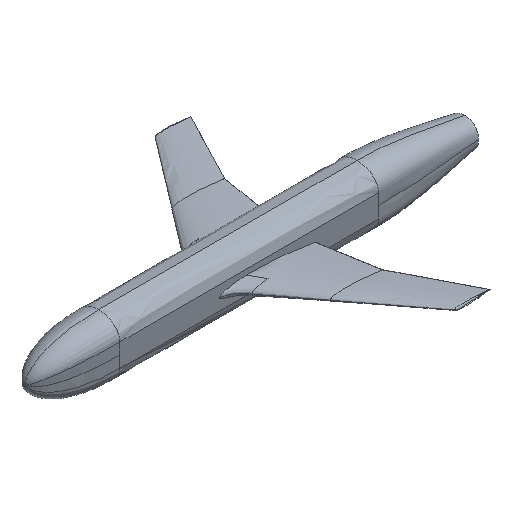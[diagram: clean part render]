
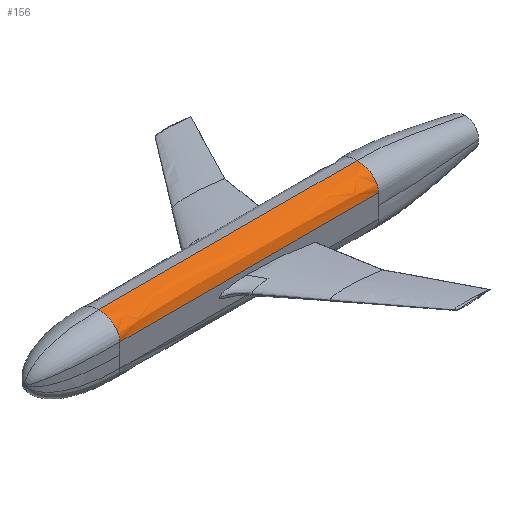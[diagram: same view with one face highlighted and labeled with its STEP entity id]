
A CAD part, isometric view. The second image highlights one B-rep face of the part: STEP entity #156.
In plain terms, the highlighted face is a extrusion surface.
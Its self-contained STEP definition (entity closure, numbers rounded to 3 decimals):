
#103=(
BOUNDED_CURVE()
B_SPLINE_CURVE(3,(#15934,#15935,#15936,#15937),.UNSPECIFIED.,.F.,.F.)
B_SPLINE_CURVE_WITH_KNOTS((4,4),(0.,1.),.UNSPECIFIED.)
CURVE()
GEOMETRIC_REPRESENTATION_ITEM()
RATIONAL_B_SPLINE_CURVE((0.277,0.223,0.223,
0.277))
REPRESENTATION_ITEM('')
);
#104=(
BOUNDED_CURVE()
B_SPLINE_CURVE(3,(#15941,#15942,#15943,#15944),.UNSPECIFIED.,.F.,.F.)
B_SPLINE_CURVE_WITH_KNOTS((4,4),(0.,1.),.UNSPECIFIED.)
CURVE()
GEOMETRIC_REPRESENTATION_ITEM()
RATIONAL_B_SPLINE_CURVE((0.277,0.223,0.223,
0.277))
REPRESENTATION_ITEM('')
);
#117=SURFACE_OF_LINEAR_EXTRUSION('',#104,#125);
#125=VECTOR('',#712,1.);
#156=ADVANCED_FACE('',(#220),#117,.F.);
#220=FACE_OUTER_BOUND('',#261,.T.);
#261=EDGE_LOOP('',(#355,#356,#357,#358));
#355=ORIENTED_EDGE('',*,*,#552,.T.);
#356=ORIENTED_EDGE('',*,*,#553,.F.);
#357=ORIENTED_EDGE('',*,*,#550,.F.);
#358=ORIENTED_EDGE('',*,*,#546,.F.);
#481=VERTEX_POINT('',#13975);
#484=VERTEX_POINT('',#14044);
#486=VERTEX_POINT('',#15013);
#487=VERTEX_POINT('',#15938);
#546=EDGE_CURVE('',#484,#481,#636,.T.);
#550=EDGE_CURVE('',#481,#486,#640,.T.);
#552=EDGE_CURVE('',#484,#487,#103,.T.);
#553=EDGE_CURVE('',#486,#487,#642,.T.);
#636=B_SPLINE_CURVE_WITH_KNOTS('',3,(#14045,#14046,#14047,#14048),
 .UNSPECIFIED.,.F.,.F.,(4,4),(0.,1.),.UNSPECIFIED.);
#640=B_SPLINE_CURVE_WITH_KNOTS('',3,(#14994,#14995,#14996,#14997,#14998,
#14999,#15000,#15001,#15002,#15003,#15004,#15005,#15006,#15007,#15008,#15009,
#15010,#15011,#15012),.UNSPECIFIED.,.F.,.F.,(4,1,1,1,1,1,1,1,1,1,1,1,1,
1,1,1,4),(0.,0.063,0.125,0.188,0.25,0.313,0.375,0.438,0.5,0.563,0.625,
0.688,0.75,0.813,0.875,0.938,1.),.UNSPECIFIED.);
#642=B_SPLINE_CURVE_WITH_KNOTS('',1,(#15939,#15940),.UNSPECIFIED.,.F.,.F.,
(2,2),(0.,1.),.UNSPECIFIED.);
#712=DIRECTION('',(1.,0.,0.));
#13975=CARTESIAN_POINT('',(3779.076,-242.68,138.216));
#14044=CARTESIAN_POINT('',(6623.876,-242.68,138.216));
#14045=CARTESIAN_POINT('',(6623.876,-242.68,138.216));
#14046=CARTESIAN_POINT('',(5675.609,-242.68,138.216));
#14047=CARTESIAN_POINT('',(4727.343,-242.68,138.216));
#14048=CARTESIAN_POINT('',(3779.076,-242.68,138.216));
#14994=CARTESIAN_POINT('',(3779.076,-242.68,138.216));
#14995=CARTESIAN_POINT('',(3779.076,-242.68,144.398));
#14996=CARTESIAN_POINT('',(3779.076,-241.921,156.763));
#14997=CARTESIAN_POINT('',(3779.076,-238.517,175.131));
#14998=CARTESIAN_POINT('',(3779.076,-232.879,193.144));
#14999=CARTESIAN_POINT('',(3779.076,-225.061,210.628));
#15000=CARTESIAN_POINT('',(3779.076,-215.14,227.414));
#15001=CARTESIAN_POINT('',(3779.076,-203.21,243.342));
#15002=CARTESIAN_POINT('',(3779.076,-189.386,258.257));
#15003=CARTESIAN_POINT('',(3779.076,-173.802,272.017));
#15004=CARTESIAN_POINT('',(3779.076,-156.607,284.488));
#15005=CARTESIAN_POINT('',(3779.076,-137.968,295.55));
#15006=CARTESIAN_POINT('',(3779.076,-118.063,305.097));
#15007=CARTESIAN_POINT('',(3779.076,-97.084,313.037));
#15008=CARTESIAN_POINT('',(3779.076,-75.234,319.294));
#15009=CARTESIAN_POINT('',(3779.076,-52.723,323.806));
#15010=CARTESIAN_POINT('',(3779.076,-29.768,326.532));
#15011=CARTESIAN_POINT('',(3779.076,-14.315,327.14));
#15012=CARTESIAN_POINT('',(3779.076,-6.589,327.14));
#15013=CARTESIAN_POINT('',(3779.076,-6.589,327.14));
#15934=CARTESIAN_POINT('',(6623.876,-242.68,138.216));
#15935=CARTESIAN_POINT('',(6623.876,-242.684,248.88));
#15936=CARTESIAN_POINT('',(6623.876,-144.892,327.135));
#15937=CARTESIAN_POINT('',(6623.876,-6.589,327.14));
#15938=CARTESIAN_POINT('',(6623.876,-6.589,327.14));
#15939=CARTESIAN_POINT('',(3779.076,-6.589,327.14));
#15940=CARTESIAN_POINT('',(6623.876,-6.589,327.14));
#15941=CARTESIAN_POINT('',(3779.076,-242.68,138.216));
#15942=CARTESIAN_POINT('',(3779.076,-242.684,248.88));
#15943=CARTESIAN_POINT('',(3779.076,-144.892,327.135));
#15944=CARTESIAN_POINT('',(3779.076,-6.589,327.14));
